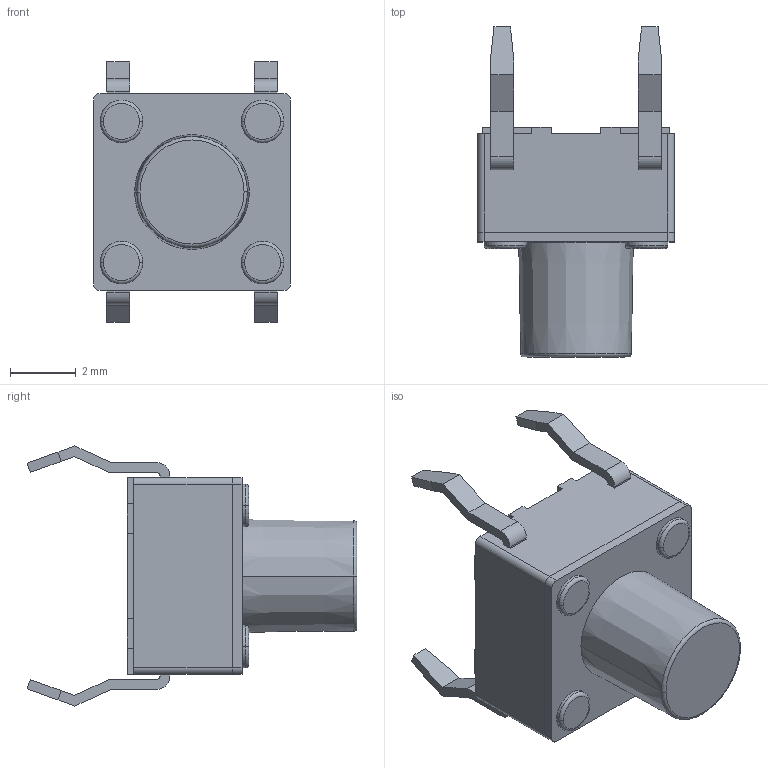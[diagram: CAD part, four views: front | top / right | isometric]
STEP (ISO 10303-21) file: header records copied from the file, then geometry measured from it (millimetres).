
FILE_DESCRIPTION((''),'2;1');
FILE_NAME('JQB6060-C0701-01G-104_ASM','2026-05-13T10:54:20',('Admin'),(''),'CREO PARAMETRIC BY PTC INC, 2019224','CREO PARAMETRIC BY PTC INC, 2019224','');
FILE_SCHEMA(('AUTOMOTIVE_DESIGN { 1 0 10303 214 1 1 1 1 }'));
Length unit declared in the file: millimetre
Products named in the file (3): JQB6060-C0701-01G-104_01; JQB6060-C0701-01G-104_02; JQB6060-C0701-01G-104_ASM
Assembly tree (2 placements, depth 2):
  JQB6060-C0701-01G-104_ASM
    JQB6060-C0701-01G-104_01
    JQB6060-C0701-01G-104_02
Bounding box: 6 x 10.05 x 7.92 mm (x, y, z)
Volume: 158.1 mm3; surface area: 300.5 mm2
Topology: 2 solids, 2 shells, 151 faces, 402 edges, 278 vertices
Faces by surface type: plane 97, cylinder 42, torus 10, cone 2
Entity records: 6671 total; most frequent: DIRECTION 834, CARTESIAN_POINT 829, ORIENTED_EDGE 784, PRESENTATION_STYLE_ASSIGNMENT 412, EDGE_CURVE 392, STYLED_ITEM 352, CURVE_STYLE 351, VECTOR 294
